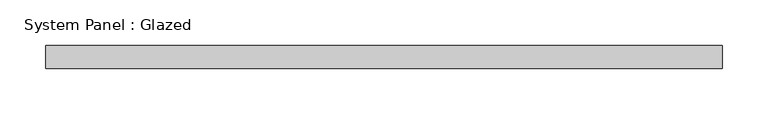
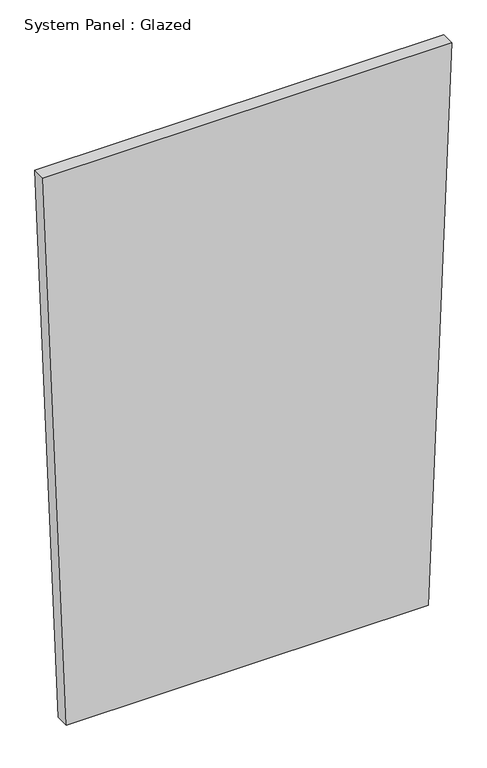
"""IFC4 building model written with IfcOpenShell, lengths in millimetres: plate geometry, System Panel : Glazed."""

import ifcopenshell
import ifcopenshell.guid

model = None  # the IFC model being written
_history = None  # IfcOwnerHistory: only IFC2X3 demands one
_inside = {}  # id of a spatial element -> (the spatial element, [elements in it])
_under = {}  # id of a project, library or spatial element -> (it, [spatial elements below it])
_declared = {}  # id of a project -> (the project, [libraries it declares])
_typed = {}  # id of a type object -> (the type object, [elements of that type])
_made_of = {}  # id of a material, layer set ... -> (it, [elements and type objects made of it])


def new_model(schema):
    """Start an empty IFC model of exactly this schema.

    Asked for "IFC4X3", IfcOpenShell would pick the latest addendum, in which some entities
    have other attributes; the version numbers below select the first issue.
    IFC2X3 requires an IfcOwnerHistory on every rooted entity: one is made here for all.
    """
    global model, _history
    if schema == "IFC4X3":
        model = ifcopenshell.file(schema_version=(4, 3, 0, 0))
    else:
        model = ifcopenshell.file(schema=schema)
    _inside.clear()
    _under.clear()
    _declared.clear()
    _typed.clear()
    _made_of.clear()
    _history = None
    if model.schema == "IFC2X3":
        org = make("IfcOrganization", Name="unknown")
        user = make(
            "IfcPersonAndOrganization",
            ThePerson=make("IfcPerson", FamilyName="unknown"),
            TheOrganization=org,
        )
        app = make(
            "IfcApplication",
            ApplicationDeveloper=org,
            Version="unknown",
            ApplicationFullName="unknown",
            ApplicationIdentifier="unknown",
        )
        _history = make(
            "IfcOwnerHistory",
            OwningUser=user,
            OwningApplication=app,
            ChangeAction="ADDED",
            CreationDate=0,
        )
    return model


def make(cls, **values):
    """One entity of the class cls with the attributes given. An attribute that is None is left unset."""
    return model.create_entity(
        cls, **{name: value for name, value in values.items() if value is not None}
    )


def rooted(cls, **values):
    """An entity with a GlobalId (a new one), such as an element, a storey or a relation."""
    return make(cls, GlobalId=ifcopenshell.guid.new(), OwnerHistory=_history, **values)


def si_unit(unit_type, name, prefix=None):
    """IfcSIUnit, for example si_unit("LENGTHUNIT", "METRE", prefix="MILLI")."""
    return make("IfcSIUnit", UnitType=unit_type, Prefix=prefix, Name=name)


def assignment(units):
    """IfcUnitAssignment: the units of a project."""
    return None if units is None else make("IfcUnitAssignment", Units=units)


def point(xyz):
    """IfcCartesianPoint."""
    return None if xyz is None else make("IfcCartesianPoint", Coordinates=xyz)


def direction(xyz):
    """IfcDirection."""
    return None if xyz is None else make("IfcDirection", DirectionRatios=xyz)


def frame(location, z_axis=None, x_axis=None):
    """IfcAxis2Placement3D, a coordinate frame: its origin and axes. An axis left out is left unset."""
    return make(
        "IfcAxis2Placement3D",
        Location=point(location),
        Axis=direction(z_axis),
        RefDirection=direction(x_axis),
    )


def origin():
    """The frame at (0, 0, 0) with its axes left unset."""
    return frame((0.0, 0.0, 0.0))


def place(relative_to, where):
    """IfcLocalPlacement: puts the frame where relative to a parent placement (None: the world)."""
    return make(
        "IfcLocalPlacement", PlacementRelTo=relative_to, RelativePlacement=where
    )


def context(
    kind, dimensions, precision=None, world=None, true_north=None, identifier=None
):
    """IfcGeometricRepresentationContext, for example the 3D "Model" context."""
    return make(
        "IfcGeometricRepresentationContext",
        ContextIdentifier=identifier,
        ContextType=kind,
        CoordinateSpaceDimension=dimensions,
        Precision=precision,
        WorldCoordinateSystem=world,
        TrueNorth=true_north,
    )


def project(units=None, contexts=None):
    """IfcProject with its units and contexts."""
    return rooted(
        "IfcProject",
        Name="project",
        RepresentationContexts=contexts,
        UnitsInContext=assignment(units),
    )


def spatial(cls, under=None, at=None, **own):
    """A site, building, storey or space (cls), placed at a placement, below another one or the project."""
    s = rooted(cls, ObjectPlacement=at, **own)
    if under is not None:
        _under.setdefault(under.id(), (under, []))[1].append(s)
    return s


def polyline(points):
    """IfcPolyline through the points."""
    return make("IfcPolyline", Points=[point(p) for p in points])


def outline(outer, holes=None, kind="AREA"):
    """IfcArbitraryClosedProfileDef: a profile drawn as a closed curve; with holes, ...WithVoids."""
    if holes is None:
        return make("IfcArbitraryClosedProfileDef", ProfileType=kind, OuterCurve=outer)
    return make(
        "IfcArbitraryProfileDefWithVoids",
        ProfileType=kind,
        OuterCurve=outer,
        InnerCurves=holes,
    )


def extrude(swept, where, along, depth):
    """IfcExtrudedAreaSolid: the profile swept, set in the frame where, extruded along a direction by depth."""
    return make(
        "IfcExtrudedAreaSolid",
        SweptArea=swept,
        Position=where,
        ExtrudedDirection=direction(along),
        Depth=depth,
    )


def shape(context_of_items, identifier, shape_type, items):
    """IfcShapeRepresentation: the items that make up one representation, for example the "Body"."""
    return make(
        "IfcShapeRepresentation",
        ContextOfItems=context_of_items,
        RepresentationIdentifier=identifier,
        RepresentationType=shape_type,
        Items=items,
    )


def source(mapping_origin, context_of_items, identifier, shape_type, items):
    """IfcRepresentationMap: a shape defined once, which mapped items show again and again."""
    return make(
        "IfcRepresentationMap",
        MappingOrigin=mapping_origin,
        MappedRepresentation=shape(context_of_items, identifier, shape_type, items),
    )


def transform(
    local_origin,
    x_axis=None,
    y_axis=None,
    z_axis=None,
    scale=None,
    scale2=None,
    scale3=None,
    uniform=True,
):
    """IfcCartesianTransformationOperator3D, or its non-uniform kind. x_axis, y_axis, z_axis: its Axis1, 2, 3."""
    if uniform:
        return make(
            "IfcCartesianTransformationOperator3D",
            Axis1=direction(x_axis),
            Axis2=direction(y_axis),
            LocalOrigin=point(local_origin),
            Scale=scale,
            Axis3=direction(z_axis),
        )
    return make(
        "IfcCartesianTransformationOperator3DnonUniform",
        Axis1=direction(x_axis),
        Axis2=direction(y_axis),
        LocalOrigin=point(local_origin),
        Scale=scale,
        Axis3=direction(z_axis),
        Scale2=scale2,
        Scale3=scale3,
    )


def mapped(mapping_source, mapping_target):
    """IfcMappedItem: shows the shape of a source again, moved by a transform."""
    return make(
        "IfcMappedItem", MappingSource=mapping_source, MappingTarget=mapping_target
    )


def made_of(thing, what):
    """Note that an element or type object is made of a material, layer set ...; save() writes the relation."""
    if what is not None:
        _made_of.setdefault(what.id(), (what, []))[1].append(thing)
    return thing


def element(
    cls,
    number,
    at=None,
    inside=None,
    cuts=None,
    type_object=None,
    material=None,
    context=None,
    identifier="Body",
    shape_type=None,
    held_by="IfcProductDefinitionShape",
    body=None,
    shapes=None,
    **own,
):
    """One element of the class cls, such as IfcWall. Its Tag is "e" and its number.

    at: its placement. inside: the storey or other place that contains it. cuts: it is an
    opening in that element (IfcRelVoidsElement). A single representation is given by context,
    identifier, shape_type and body (its items); several are given by shapes. held_by: the class
    of the entity that holds the representations. save() writes the other relations.
    """
    e = rooted(cls, Tag="e%d" % number, ObjectPlacement=at, **own)
    if body is not None:
        shapes = [shape(context, identifier, shape_type, body)]
    if shapes is not None:
        e.Representation = make(held_by, Representations=shapes)
    if inside is not None:
        _inside.setdefault(inside.id(), (inside, []))[1].append(e)
    if cuts is not None:
        rooted(
            "IfcRelVoidsElement", RelatingBuildingElement=cuts, RelatedOpeningElement=e
        )
    if type_object is not None:
        _typed.setdefault(type_object.id(), (type_object, []))[1].append(e)
    return made_of(e, material)


def aggregate(whole, parts):
    """IfcRelAggregates: a whole, such as a stair, and the parts it consists of."""
    return rooted("IfcRelAggregates", RelatingObject=whole, RelatedObjects=parts)


def save(model, path):
    """Write the relations noted so far, then the file.

    IfcRelAggregates (storeys below a building ...), IfcRelContainedInSpatialStructure (elements
    in a storey), IfcRelDefinesByType, IfcRelAssociatesMaterial and IfcRelDeclares: one each for
    every whole, place, type object, material and project.
    """
    for whole, parts in _under.values():
        aggregate(whole, parts)
    for where, things in _inside.values():
        rooted(
            "IfcRelContainedInSpatialStructure",
            RelatedElements=things,
            RelatingStructure=where,
        )
    for kind, things in _typed.values():
        rooted("IfcRelDefinesByType", RelatedObjects=things, RelatingType=kind)
    for what, things in _made_of.values():
        rooted("IfcRelAssociatesMaterial", RelatedObjects=things, RelatingMaterial=what)
    for by, libraries in _declared.values():
        rooted("IfcRelDeclares", RelatingContext=by, RelatedDefinitions=libraries)
    model.write(path)


def system_panel_glazed_91e01184(model_context):
    return source(origin(), model_context, "Body", "SweptSolid", [
        extrude(outline(polyline([(0.0, -328.8718187), (0.0, 328.8718187), (1065.9437099, 371.6064343), (1065.9437099, -371.6064343), (0.0, -328.8718187)])), frame((0.0, -44.45, 0.0), z_axis=(0.0, 1.0, 0.0), x_axis=(0.0, 0.0, 1.0)), (0.0, 0.0, 1.0), 25.4),
    ])


if __name__ == "__main__":
    model = new_model("IFC4")
    model_context = context("Model", 3, world=origin())
    ifc_project = project(units=[si_unit("LENGTHUNIT", "METRE", prefix="MILLI")], contexts=[model_context])
    site = spatial("IfcSite", under=ifc_project)
    building = spatial("IfcBuilding", under=site)
    placement = place(None, origin())
    system_panel_glazed_shape = system_panel_glazed_91e01184(model_context)
    element("IfcPlate", 1, ObjectType="System Panel : Glazed", at=placement, inside=building, context=model_context, shape_type="MappedRepresentation", body=[
        mapped(system_panel_glazed_shape, transform((0.0, 0.0, 0.0), x_axis=(1.0, 0.0, 0.0), y_axis=(0.0, 1.0, 0.0), z_axis=(0.0, 0.0, 1.0))),
    ])
    save(model, "model.ifc")
